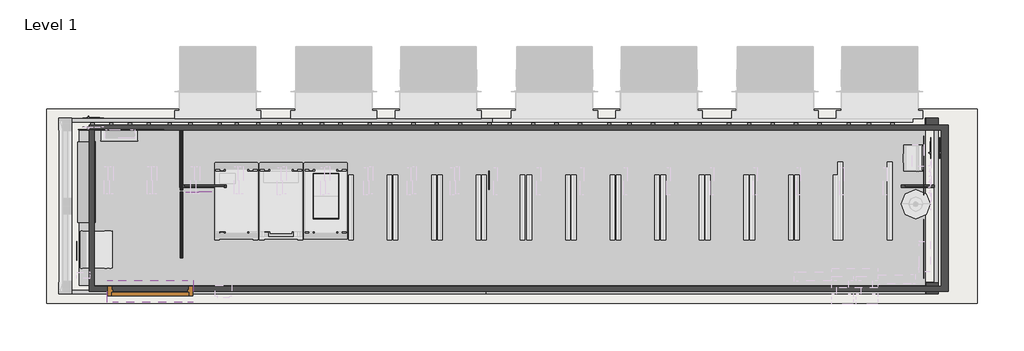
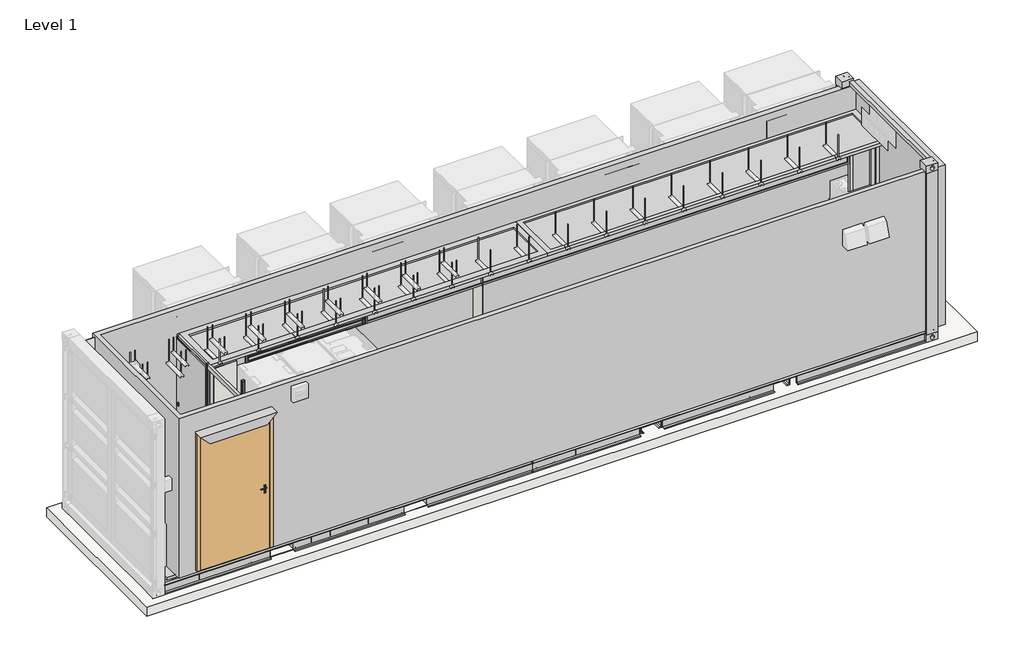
# One storey, part 1 of 2: 44 beams, 7 walls, 2 doors, 2 slabs.
"""IFC4 building model written with IfcOpenShell, lengths in millimetres."""

from ifc_helpers import new_model, si_unit, frame, origin, place, context, project, spatial, polyline, circle_curve, outline, extrude, transform, mapped, element, save
from ifc_brep_helpers import plane_surface, cylinder_surface, advanced_brep
from components import beam_16bb976f, beam_9de8577c, beam_f1e470be, beam_f05dd575, c120x45_62af5141, c120x45_5c9b4daa, foot_stand_and_door_shade_foot_stand_and_door_shade_9e24d134, door_5ed18baa, door_f1603644, slab_0a3f1999

model = new_model("IFC4")

# Units and contexts
model_context = context("Model", 3, world=origin())
ifc_project = project(units=[si_unit("LENGTHUNIT", "METRE", prefix="MILLI")], contexts=[model_context])

# Site, building, storey
site = spatial("IfcSite", under=ifc_project)
building = spatial("IfcBuilding", under=site)
storey = spatial("IfcBuildingStorey", under=building, Name="Level 1", Elevation=0.0)

# Beams
placement = place(None, origin())
beam_shape = beam_16bb976f(model_context)
element("IfcBeam", 1, ObjectType="Base_cover_Config-6 : Base_cover_Config-6", at=placement, inside=storey, context=model_context, shape_type="MappedRepresentation", body=[
    mapped(beam_shape, transform((-1145.3838032, -1779.2772175, 0.0), x_axis=(1.0, 0.0, 0.0), y_axis=(0.0, 1.0, 0.0), z_axis=(0.0, 0.0, 1.0))),
])
beam_2_shape = beam_9de8577c(model_context)
element("IfcBeam", 2, ObjectType="Insulation_config6 : Insulation_config6", at=placement, inside=storey, context=model_context, shape_type="MappedRepresentation", body=[
    mapped(beam_2_shape, transform((-5325.0880606, -3404.7772175, 0.0), x_axis=(1.0, 0.0, 0.0), y_axis=(0.0, 1.0, 0.0), z_axis=(0.0, 0.0, 1.0))),
])
beam_3_shape = beam_f1e470be(model_context)
element("IfcBeam", 3, ObjectType="Inside Partition Config-6 : Inside Partition Config-6", at=placement, inside=storey, context=model_context, shape_type="MappedRepresentation", body=[
    mapped(beam_3_shape, transform((-981.5065238, -1131.319177, 4.2), x_axis=(1.0, 0.0, 0.0), y_axis=(0.0, 1.0, 0.0), z_axis=(0.0, 0.0, 1.0))),
])
beam_4_shape = beam_f05dd575(model_context)
element("IfcBeam", 4, ObjectType="Config-6 Right side wall acc : Config-6 Right side wall acc", at=placement, inside=storey, context=model_context, shape_type="MappedRepresentation", body=[
    mapped(beam_4_shape, transform((4978.8891977, -2915.458701, 250.9999942), x_axis=(1.0, 0.0, 0.0), y_axis=(0.0, 1.0, 0.0), z_axis=(0.0, 0.0, 1.0))),
])
c120x45_shape = c120x45_62af5141(model_context)
element("IfcBeam", 5, ObjectType="M_C-Channel_305x105 : C120x45", at=placement, inside=storey, context=model_context, shape_type="MappedRepresentation", body=[
    mapped(c120x45_shape, transform((-3750.0018007, -1755.2772175, 324.0), x_axis=(0.0, -1.0, 0.0), y_axis=(1.0, 0.0, 0.0), z_axis=(0.0, 0.0, 1.0))),
])
element("IfcBeam", 6, ObjectType="M_C-Channel_305x105 : C120x45", at=placement, inside=storey, context=model_context, shape_type="MappedRepresentation", body=[
    mapped(c120x45_shape, transform((-3490.0018007, -1755.2772175, 324.0), x_axis=(0.0, -1.0, 0.0), y_axis=(1.0, 0.0, 0.0), z_axis=(0.0, 0.0, 1.0))),
])
element("IfcBeam", 7, ObjectType="M_C-Channel_305x105 : C120x45", at=placement, inside=storey, context=model_context, shape_type="MappedRepresentation", body=[
    mapped(c120x45_shape, transform((-3230.0018007, -1755.2772175, 324.0), x_axis=(0.0, -1.0, 0.0), y_axis=(1.0, 0.0, 0.0), z_axis=(0.0, 0.0, 1.0))),
])
element("IfcBeam", 8, ObjectType="M_C-Channel_305x105 : C120x45", at=placement, inside=storey, context=model_context, shape_type="MappedRepresentation", body=[
    mapped(c120x45_shape, transform((-2970.0018007, -1755.2772175, 324.0), x_axis=(0.0, -1.0, 0.0), y_axis=(1.0, 0.0, 0.0), z_axis=(0.0, 0.0, 1.0))),
])
element("IfcBeam", 9, ObjectType="M_C-Channel_305x105 : C120x45", at=placement, inside=storey, context=model_context, shape_type="MappedRepresentation", body=[
    mapped(c120x45_shape, transform((-2392.0018007, -1755.2772175, 324.0), x_axis=(0.0, -1.0, 0.0), y_axis=(1.0, 0.0, 0.0), z_axis=(0.0, 0.0, 1.0))),
])
element("IfcBeam", 10, ObjectType="M_C-Channel_305x105 : C120x45", at=placement, inside=storey, context=model_context, shape_type="MappedRepresentation", body=[
    mapped(c120x45_shape, transform((-2681.0018007, -1755.2772175, 324.0), x_axis=(0.0, -1.0, 0.0), y_axis=(1.0, 0.0, 0.0), z_axis=(0.0, 0.0, 1.0))),
])
element("IfcBeam", 11, ObjectType="M_C-Channel_305x105 : C120x45", at=placement, inside=storey, context=model_context, shape_type="MappedRepresentation", body=[
    mapped(c120x45_shape, transform((-1750.0018007, -1755.2772175, 324.0), x_axis=(0.0, -1.0, 0.0), y_axis=(1.0, 0.0, 0.0), z_axis=(0.0, 0.0, 1.0))),
])
element("IfcBeam", 12, ObjectType="M_C-Channel_305x105 : C120x45", at=placement, inside=storey, context=model_context, shape_type="MappedRepresentation", body=[
    mapped(c120x45_shape, transform((-1455.0018007, -1755.2772175, 324.0), x_axis=(0.0, -1.0, 0.0), y_axis=(1.0, 0.0, 0.0), z_axis=(0.0, 0.0, 1.0))),
])
element("IfcBeam", 13, ObjectType="M_C-Channel_305x105 : C120x45", at=placement, inside=storey, context=model_context, shape_type="MappedRepresentation", body=[
    mapped(c120x45_shape, transform((-1158.964023, -1755.2772175, 324.0), x_axis=(0.0, -1.0, 0.0), y_axis=(1.0, 0.0, 0.0), z_axis=(0.0, 0.0, 1.0))),
])
element("IfcBeam", 14, ObjectType="M_C-Channel_305x105 : C120x45", at=placement, inside=storey, context=model_context, shape_type="MappedRepresentation", body=[
    mapped(c120x45_shape, transform((-865.0018007, -1755.2772175, 324.0), x_axis=(0.0, -1.0, 0.0), y_axis=(1.0, 0.0, 0.0), z_axis=(0.0, 0.0, 1.0))),
])
element("IfcBeam", 15, ObjectType="M_C-Channel_305x105 : C120x45", at=placement, inside=storey, context=model_context, shape_type="MappedRepresentation", body=[
    mapped(c120x45_shape, transform((-570.0018007, -1755.2772175, 324.0), x_axis=(0.0, -1.0, 0.0), y_axis=(1.0, 0.0, 0.0), z_axis=(0.0, 0.0, 1.0))),
])
element("IfcBeam", 16, ObjectType="M_C-Channel_305x105 : C120x45", at=placement, inside=storey, context=model_context, shape_type="MappedRepresentation", body=[
    mapped(c120x45_shape, transform((-312.0018007, -1755.2772175, 324.0), x_axis=(0.0, -1.0, 0.0), y_axis=(1.0, 0.0, 0.0), z_axis=(0.0, 0.0, 1.0))),
])
element("IfcBeam", 17, ObjectType="M_C-Channel_305x105 : C120x45", at=placement, inside=storey, context=model_context, shape_type="MappedRepresentation", body=[
    mapped(c120x45_shape, transform((372.9981993, -1755.2772175, 324.0), x_axis=(0.0, -1.0, 0.0), y_axis=(1.0, 0.0, 0.0), z_axis=(0.0, 0.0, 1.0))),
])
element("IfcBeam", 18, ObjectType="M_C-Channel_305x105 : C120x45", at=placement, inside=storey, context=model_context, shape_type="MappedRepresentation", body=[
    mapped(c120x45_shape, transform((697.9981993, -1755.2772175, 324.0), x_axis=(0.0, -1.0, 0.0), y_axis=(1.0, 0.0, 0.0), z_axis=(0.0, 0.0, 1.0))),
])
element("IfcBeam", 19, ObjectType="M_C-Channel_305x105 : C120x45", at=placement, inside=storey, context=model_context, shape_type="MappedRepresentation", body=[
    mapped(c120x45_shape, transform((1022.9981993, -1755.2772175, 324.0), x_axis=(0.0, -1.0, 0.0), y_axis=(1.0, 0.0, 0.0), z_axis=(0.0, 0.0, 1.0))),
])
element("IfcBeam", 20, ObjectType="M_C-Channel_305x105 : C120x45", at=placement, inside=storey, context=model_context, shape_type="MappedRepresentation", body=[
    mapped(c120x45_shape, transform((1347.9981993, -1755.2772175, 324.0), x_axis=(0.0, -1.0, 0.0), y_axis=(1.0, 0.0, 0.0), z_axis=(0.0, 0.0, 1.0))),
])
element("IfcBeam", 21, ObjectType="M_C-Channel_305x105 : C120x45", at=placement, inside=storey, context=model_context, shape_type="MappedRepresentation", body=[
    mapped(c120x45_shape, transform((2032.9981993, -1755.2772175, 324.0), x_axis=(0.0, -1.0, 0.0), y_axis=(1.0, 0.0, 0.0), z_axis=(0.0, 0.0, 1.0))),
])
element("IfcBeam", 22, ObjectType="M_C-Channel_305x105 : C120x45", at=placement, inside=storey, context=model_context, shape_type="MappedRepresentation", body=[
    mapped(c120x45_shape, transform((2357.9981993, -1755.2772175, 324.0), x_axis=(0.0, -1.0, 0.0), y_axis=(1.0, 0.0, 0.0), z_axis=(0.0, 0.0, 1.0))),
])
element("IfcBeam", 23, ObjectType="M_C-Channel_305x105 : C120x45", at=placement, inside=storey, context=model_context, shape_type="MappedRepresentation", body=[
    mapped(c120x45_shape, transform((2682.9981993, -1755.2772175, 324.0), x_axis=(0.0, -1.0, 0.0), y_axis=(1.0, 0.0, 0.0), z_axis=(0.0, 0.0, 1.0))),
])
element("IfcBeam", 24, ObjectType="M_C-Channel_305x105 : C120x45", at=placement, inside=storey, context=model_context, shape_type="MappedRepresentation", body=[
    mapped(c120x45_shape, transform((3007.9981993, -1755.2772175, 324.0), x_axis=(0.0, -1.0, 0.0), y_axis=(1.0, 0.0, 0.0), z_axis=(0.0, 0.0, 1.0))),
])
element("IfcBeam", 25, ObjectType="M_C-Channel_305x105 : C120x45", at=placement, inside=storey, context=model_context, shape_type="MappedRepresentation", body=[
    mapped(c120x45_shape, transform((3692.9981993, -1755.2772175, 324.0), x_axis=(0.0, -1.0, 0.0), y_axis=(1.0, 0.0, 0.0), z_axis=(0.0, 0.0, 1.0))),
])
element("IfcBeam", 26, ObjectType="M_C-Channel_305x105 : C120x45", at=placement, inside=storey, context=model_context, shape_type="MappedRepresentation", body=[
    mapped(c120x45_shape, transform((4017.9981993, -1755.2772175, 324.0), x_axis=(0.0, -1.0, 0.0), y_axis=(1.0, 0.0, 0.0), z_axis=(0.0, 0.0, 1.0))),
])
element("IfcBeam", 27, ObjectType="M_C-Channel_305x105 : C120x45", at=placement, inside=storey, context=model_context, shape_type="MappedRepresentation", body=[
    mapped(c120x45_shape, transform((4342.9981993, -1755.2772175, 324.0), x_axis=(0.0, -1.0, 0.0), y_axis=(1.0, 0.0, 0.0), z_axis=(0.0, 0.0, 1.0))),
])
element("IfcBeam", 28, ObjectType="M_C-Channel_305x105 : C120x45", at=placement, inside=storey, context=model_context, shape_type="MappedRepresentation", body=[
    mapped(c120x45_shape, transform((4667.9981993, -1755.2772175, 324.0), x_axis=(0.0, -1.0, 0.0), y_axis=(1.0, 0.0, 0.0), z_axis=(0.0, 0.0, 1.0))),
])
element("IfcBeam", 29, ObjectType="M_C-Channel_305x105 : C120x45", at=placement, inside=storey, context=model_context, shape_type="MappedRepresentation", body=[
    mapped(c120x45_shape, transform((5352.9981993, -1755.2772175, 324.0), x_axis=(0.0, -1.0, 0.0), y_axis=(1.0, 0.0, 0.0), z_axis=(0.0, 0.0, 1.0))),
])
element("IfcBeam", 30, ObjectType="M_C-Channel_305x105 : C120x45", at=placement, inside=storey, context=model_context, shape_type="MappedRepresentation", body=[
    mapped(c120x45_shape, transform((5677.9981993, -1755.2772175, 324.0), x_axis=(0.0, -1.0, 0.0), y_axis=(1.0, 0.0, 0.0), z_axis=(0.0, 0.0, 1.0))),
])
element("IfcBeam", 31, ObjectType="M_C-Channel_305x105 : C120x45", at=placement, inside=storey, context=model_context, shape_type="MappedRepresentation", body=[
    mapped(c120x45_shape, transform((6002.9981993, -1755.2772175, 324.0), x_axis=(0.0, -1.0, 0.0), y_axis=(1.0, 0.0, 0.0), z_axis=(0.0, 0.0, 1.0))),
])
element("IfcBeam", 32, ObjectType="M_C-Channel_305x105 : C120x45", at=placement, inside=storey, context=model_context, shape_type="MappedRepresentation", body=[
    mapped(c120x45_shape, transform((6327.9981993, -1755.2772175, 324.0), x_axis=(0.0, -1.0, 0.0), y_axis=(1.0, 0.0, 0.0), z_axis=(0.0, 0.0, 1.0))),
])
element("IfcBeam", 33, ObjectType="M_C-Channel_305x105 : C120x45", at=placement, inside=storey, context=model_context, shape_type="MappedRepresentation", body=[
    mapped(c120x45_shape, transform((7012.9981993, -1755.2772175, 324.0), x_axis=(0.0, -1.0, 0.0), y_axis=(1.0, 0.0, 0.0), z_axis=(0.0, 0.0, 1.0))),
])
element("IfcBeam", 34, ObjectType="M_C-Channel_305x105 : C120x45", at=placement, inside=storey, context=model_context, shape_type="MappedRepresentation", body=[
    mapped(c120x45_shape, transform((7337.9981993, -1755.2772175, 324.0), x_axis=(0.0, -1.0, 0.0), y_axis=(1.0, 0.0, 0.0), z_axis=(0.0, 0.0, 1.0))),
])
c120x45_2_shape = c120x45_5c9b4daa(model_context)
element("IfcBeam", 35, ObjectType="M_C-Channel_305x105 : C120x45", at=placement, inside=storey, context=model_context, shape_type="MappedRepresentation", body=[
    mapped(c120x45_2_shape, transform((-1998.2198038, -1755.2772175, 324.0), x_axis=(0.0, -1.0, 0.0), y_axis=(1.0, 0.0, 0.0), z_axis=(0.0, 0.0, 1.0))),
])
element("IfcBeam", 36, ObjectType="M_C-Channel_305x105 : C120x45", at=placement, inside=storey, context=model_context, shape_type="MappedRepresentation", body=[
    mapped(c120x45_2_shape, transform((81.7801962, -1755.2772175, 324.0), x_axis=(0.0, -1.0, 0.0), y_axis=(1.0, 0.0, 0.0), z_axis=(0.0, 0.0, 1.0))),
])
element("IfcBeam", 37, ObjectType="M_C-Channel_305x105 : C120x45", at=placement, inside=storey, context=model_context, shape_type="MappedRepresentation", body=[
    mapped(c120x45_2_shape, transform((1741.7801962, -1755.2772175, 324.0), x_axis=(0.0, -1.0, 0.0), y_axis=(1.0, 0.0, 0.0), z_axis=(0.0, 0.0, 1.0))),
])
element("IfcBeam", 38, ObjectType="M_C-Channel_305x105 : C120x45", at=placement, inside=storey, context=model_context, shape_type="MappedRepresentation", body=[
    mapped(c120x45_2_shape, transform((3401.7801962, -1755.2772175, 324.0), x_axis=(0.0, -1.0, 0.0), y_axis=(1.0, 0.0, 0.0), z_axis=(0.0, 0.0, 1.0))),
])
element("IfcBeam", 39, ObjectType="M_C-Channel_305x105 : C120x45", at=placement, inside=storey, context=model_context, shape_type="MappedRepresentation", body=[
    mapped(c120x45_2_shape, transform((5061.7801962, -1755.2772175, 324.0), x_axis=(0.0, -1.0, 0.0), y_axis=(1.0, 0.0, 0.0), z_axis=(0.0, 0.0, 1.0))),
])
element("IfcBeam", 40, ObjectType="M_C-Channel_305x105 : C120x45", at=placement, inside=storey, context=model_context, shape_type="MappedRepresentation", body=[
    mapped(c120x45_2_shape, transform((6721.7801962, -1755.2772175, 324.0), x_axis=(0.0, -1.0, 0.0), y_axis=(1.0, 0.0, 0.0), z_axis=(0.0, 0.0, 1.0))),
])
element("IfcBeam", 41, ObjectType="M_C-Channel_305x105 : C160x47", at=placement, inside=storey, context=model_context, shape_type="AdvancedBrep", body=[
    advanced_brep(
    [(-4042.1108023, -585.7772175, 410.9999915), (-4042.1108023, -538.7772175, 410.9999915), (-4042.1108023, -551.4772175, 398.2999915), (-4042.1108023, -580.7772175, 393.6593274), (-4042.1108023, -580.7772175, 268.3406556), (-4042.1108023, -551.4772175, 263.6999915), (-4042.1108023, -538.7772175, 250.9999915), (-4042.1108023, -585.7772175, 250.9999915), (1785.8997533, -585.7772175, 410.9999915), (1785.8997533, -585.7772175, 250.9999915), (1785.8997533, -538.7772175, 250.9999915), (1785.8997533, -551.4772175, 263.6999915), (1785.8997533, -580.7772175, 268.3406556), (1785.8997533, -580.7772175, 393.6593274), (1785.8997533, -551.4772175, 398.2999915), (1785.8997533, -538.7772175, 410.9999915), (57.9269755, -580.7772175, 268.3406556), (57.9269755, -580.7772175, 365.9999967), (-302.1002467, -580.7772175, 365.9999967), (-302.1002467, -580.7772175, 268.3406556), (-2015.8963632, -580.7772175, 268.3406556), (-2015.8963632, -580.7772175, 365.999994), (-2382.1000733, -580.7772175, 365.999994), (-2382.1000733, -580.7772175, 268.3406556), (-2382.1000733, -551.4772175, 263.6999915), (57.9269755, -551.4772175, 263.6999915), (-2015.8963632, -551.4772175, 263.6999915), (-302.1002467, -551.4772175, 263.6999915), (-2382.1000733, -538.7772175, 250.9999915), (57.9269755, -538.7772175, 250.9999915), (-2015.8963632, -538.7772175, 250.9999915), (-302.1002467, -538.7772175, 250.9999915), (-2382.1000733, -585.7772175, 250.9999915), (57.9269755, -585.7772175, 250.9999915), (-2015.8963632, -585.7772175, 250.9999915), (-302.1002467, -585.7772175, 250.9999915), (-2382.1000733, -585.7772175, 365.999994), (-2015.8963632, -585.7772175, 365.999994), (-302.1002467, -585.7772175, 365.9999967), (57.9269755, -585.7772175, 365.9999967)],
    [
        (0, 1),
        (1, 2, circle_curve(frame((-4042.1108023, -551.4772175, 410.9999915), z_axis=(-1.0, 0.0, 0.0), x_axis=(0.0, 1.0, 0.0)), 12.7)),
        (2, 3),
        (3, 4),
        (4, 5),
        (5, 6, circle_curve(frame((-4042.1108023, -551.4772175, 250.9999915), z_axis=(-1.0, 0.0, 0.0), x_axis=(0.0, 1.0, 0.0)), 12.7)),
        (6, 7),
        (7, 0),
        (8, 9),
        (9, 10),
        (10, 11, circle_curve(frame((1785.8997533, -551.4772175, 250.9999915), z_axis=(1.0, 0.0, 0.0), x_axis=(0.0, 1.0, 0.0)), 12.7)),
        (11, 12),
        (12, 13),
        (13, 14),
        (14, 15, circle_curve(frame((1785.8997533, -551.4772175, 410.9999915), z_axis=(1.0, 0.0, 0.0), x_axis=(0.0, 1.0, 0.0)), 12.7)),
        (15, 8),
        (0, 8),
        (15, 1),
        (14, 2),
        (13, 3),
        (12, 16),
        (16, 17),
        (17, 18),
        (18, 19),
        (19, 20),
        (20, 21),
        (21, 22),
        (22, 23),
        (23, 4),
        (23, 24),
        (24, 5),
        (11, 25),
        (25, 16),
        (26, 20),
        (19, 27),
        (27, 26),
        (24, 28, circle_curve(frame((-2382.1000733, -551.4772175, 250.9999915), z_axis=(-1.0, 0.0, 0.0), x_axis=(0.0, 1.0, 0.0)), 12.7)),
        (28, 6),
        (10, 29),
        (29, 25, circle_curve(frame((57.9269755, -551.4772175, 250.9999915), z_axis=(1.0, 0.0, 0.0), x_axis=(0.0, 1.0, 0.0)), 12.7)),
        (30, 26, circle_curve(frame((-2015.8963632, -551.4772175, 250.9999915), z_axis=(1.0, 0.0, 0.0), x_axis=(0.0, 1.0, 0.0)), 12.7)),
        (27, 31, circle_curve(frame((-302.1002467, -551.4772175, 250.9999915), z_axis=(-1.0, 0.0, 0.0), x_axis=(0.0, 1.0, 0.0)), 12.7)),
        (31, 30),
        (28, 32),
        (32, 7),
        (9, 33),
        (33, 29),
        (34, 30),
        (31, 35),
        (35, 34),
        (32, 36),
        (36, 37),
        (37, 34),
        (35, 38),
        (38, 39),
        (39, 33),
        (36, 22),
        (21, 37),
        (38, 18),
        (17, 39),
    ],
    [
        plane_surface(frame((-4042.1108023, -564.7772175, 330.9999915), z_axis=(-1.0, 0.0, 0.0), x_axis=(0.0, 0.0, 1.0))),
        plane_surface(frame((1785.8997533, -564.7772175, 330.9999915), z_axis=(1.0, 0.0, 0.0), x_axis=(0.0, 0.0, 1.0))),
        plane_surface(frame((-4042.1108023, -585.7772175, 410.9999915), z_axis=(0.0, 0.0, 1.0), x_axis=(1.0, 0.0, 0.0))),
        cylinder_surface(frame((-4042.1108023, -551.4772175, 410.9999915), z_axis=(-1.0, 0.0, 0.0), x_axis=(0.0, 1.0, 0.0)), 12.7),
        plane_surface(frame((-4042.1108023, -551.4772175, 398.2999915), z_axis=(0.0, 0.15643446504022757, -0.9876883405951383), x_axis=(1.0, 0.0, 0.0))),
        plane_surface(frame((-4042.1108023, -580.7772175, 393.6593274), z_axis=(0.0, 1.0, 0.0), x_axis=(1.0, 0.0, 0.0))),
        plane_surface(frame((-4042.1108023, -580.7772175, 268.3406556), z_axis=(0.0, 0.1564344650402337, 0.9876883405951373), x_axis=(1.0, 0.0, 0.0))),
        cylinder_surface(frame((-4042.1108023, -551.4772175, 250.9999915), z_axis=(-1.0, 0.0, 0.0), x_axis=(0.0, 1.0, 0.0)), 12.7),
        plane_surface(frame((-4042.1108023, -538.7772175, 250.9999915), z_axis=(0.0, 0.0, -1.0), x_axis=(1.0, 0.0, 0.0))),
        plane_surface(frame((-4042.1108023, -585.7772175, 250.9999915), z_axis=(0.0, -1.0, 0.0), x_axis=(1.0, 0.0, 0.0))),
        plane_surface(frame((-2382.1000733, 16483.0727825, 365.999994), z_axis=(0.0, 0.0, -1.0), x_axis=(0.0, -1.0, 0.0))),
        plane_surface(frame((-2015.8963632, 16483.0727825, 365.999994), z_axis=(-1.0, 0.0, 0.0), x_axis=(0.0, -1.0, 0.0))),
        plane_surface(frame((-2382.1000733, 16483.0727825, 250.9999915), z_axis=(1.0, 0.0, 0.0), x_axis=(0.0, -1.0, 0.0))),
        plane_surface(frame((-302.1002467, 16483.0727825, 365.9999967), z_axis=(0.0, 0.0, -1.0), x_axis=(0.0, -1.0, 0.0))),
        plane_surface(frame((57.9269755, 16483.0727825, 365.9999967), z_axis=(-1.0, 0.0, 0.0), x_axis=(0.0, -1.0, 0.0))),
        plane_surface(frame((-302.1002467, 16483.0727825, 250.9999915), z_axis=(1.0, 0.0, 0.0), x_axis=(0.0, -1.0, 0.0))),
    ],
    [
        (0, [[1, 2, 3, 4, 5, 6, 7, 8]]),
        (1, [[9, 10, 11, 12, 13, 14, 15, 16]]),
        (2, [[-1, 17, -16, 18]]),
        (3, [[-2, -18, -15, 19]]),
        (4, [[-3, -19, -14, 20]]),
        (5, [[-4, -20, -13, 21, 22, 23, 24, 25, 26, 27, 28, 29]]),
        (6, [[-5, -29, 30, 31]]),
        (6, [[-12, 32, 33, -21]]),
        (6, [[34, -25, 35, 36]]),
        (7, [[-6, -31, 37, 38]]),
        (7, [[-11, 39, 40, -32]]),
        (7, [[41, -36, 42, 43]]),
        (8, [[-7, -38, 44, 45]]),
        (8, [[-10, 46, 47, -39]]),
        (8, [[48, -43, 49, 50]]),
        (9, [[-8, -45, 51, 52, 53, -50, 54, 55, 56, -46, -9, -17]]),
        (10, [[57, -27, 58, -52]]),
        (11, [[-58, -26, -34, -41, -48, -53]]),
        (12, [[-57, -51, -44, -37, -30, -28]]),
        (13, [[59, -23, 60, -55]]),
        (14, [[-60, -22, -33, -40, -47, -56]]),
        (15, [[-59, -54, -49, -42, -35, -24]]),
    ],
),
])
element("IfcBeam", 42, ObjectType="M_C-Channel_305x105 : C160x47", at=placement, inside=storey, context=model_context, shape_type="AdvancedBrep", body=[
    advanced_brep(
    [(-4042.1108023, -2971.7772175, 410.9999915), (-4042.1108023, -2924.7772175, 410.9999915), (-4042.1108023, -2924.7772175, 250.9999915), (-4042.1108023, -2971.7772175, 250.9999915), (-4042.1108023, -2959.0772175, 263.6999915), (-4042.1108023, -2929.7772175, 268.3406556), (-4042.1108023, -2929.7772175, 393.6593274), (-4042.1108023, -2959.0772175, 398.2999915), (1692.8997533, -2924.7772175, 250.9999915), (1692.8997533, -2924.7772175, 410.9999915), (1692.8997533, -2971.7772175, 410.9999915), (1692.8997533, -2959.0772175, 398.2999915), (1692.8997533, -2929.7772175, 393.6593274), (1692.8997533, -2929.7772175, 268.3406556), (1692.8997533, -2959.0772175, 263.6999915), (1692.8997533, -2971.7772175, 250.9999915), (-2382.1000733, -2929.7772175, 268.3406556), (-2382.1000733, -2929.7772175, 365.999994), (-2015.8963632, -2929.7772175, 365.999994), (-2015.8963632, -2929.7772175, 268.3406556), (-302.1002467, -2929.7772175, 268.3406556), (-302.1002467, -2929.7772175, 365.9999967), (57.9269755, -2929.7772175, 365.9999967), (57.9269755, -2929.7772175, 268.3406556), (-2382.1000733, -2959.0772175, 263.6999915), (57.9269755, -2959.0772175, 263.6999915), (-2015.8963632, -2959.0772175, 263.6999915), (-302.1002467, -2959.0772175, 263.6999915), (-2382.1000733, -2971.7772175, 250.9999915), (57.9269755, -2971.7772175, 250.9999915), (-2015.8963632, -2971.7772175, 250.9999915), (-302.1002467, -2971.7772175, 250.9999915), (-2382.1000733, -2924.7772175, 250.9999915), (57.9269755, -2924.7772175, 250.9999915), (-2015.8963632, -2924.7772175, 250.9999915), (-302.1002467, -2924.7772175, 250.9999915), (57.9269755, -2924.7772175, 365.9999967), (-302.1002467, -2924.7772175, 365.9999967), (-2015.8963632, -2924.7772175, 365.999994), (-2382.1000733, -2924.7772175, 365.999994)],
    [
        (0, 1),
        (1, 2),
        (2, 3),
        (3, 4, circle_curve(frame((-4042.1108023, -2959.0772175, 250.9999915), z_axis=(-1.0, 0.0, 0.0), x_axis=(0.0, -1.0, 0.0)), 12.7)),
        (4, 5),
        (5, 6),
        (6, 7),
        (7, 0, circle_curve(frame((-4042.1108023, -2959.0772175, 410.9999915), z_axis=(-1.0, 0.0, 0.0), x_axis=(0.0, -1.0, 0.0)), 12.7)),
        (8, 9),
        (9, 10),
        (10, 11, circle_curve(frame((1692.8997533, -2959.0772175, 410.9999915), z_axis=(1.0, 0.0, 0.0), x_axis=(0.0, -1.0, 0.0)), 12.7)),
        (11, 12),
        (12, 13),
        (13, 14),
        (14, 15, circle_curve(frame((1692.8997533, -2959.0772175, 250.9999915), z_axis=(1.0, 0.0, 0.0), x_axis=(0.0, -1.0, 0.0)), 12.7)),
        (15, 8),
        (0, 10),
        (9, 1),
        (7, 11),
        (6, 12),
        (5, 16),
        (16, 17),
        (17, 18),
        (18, 19),
        (19, 20),
        (20, 21),
        (21, 22),
        (22, 23),
        (23, 13),
        (4, 24),
        (24, 16),
        (23, 25),
        (25, 14),
        (19, 26),
        (26, 27),
        (27, 20),
        (3, 28),
        (28, 24, circle_curve(frame((-2382.1000733, -2959.0772175, 250.9999915), z_axis=(-1.0, 0.0, 0.0), x_axis=(0.0, -1.0, 0.0)), 12.7)),
        (25, 29, circle_curve(frame((57.9269755, -2959.0772175, 250.9999915), z_axis=(1.0, 0.0, 0.0), x_axis=(0.0, -1.0, 0.0)), 12.7)),
        (29, 15),
        (26, 30, circle_curve(frame((-2015.8963632, -2959.0772175, 250.9999915), z_axis=(1.0, 0.0, 0.0), x_axis=(0.0, -1.0, 0.0)), 12.7)),
        (30, 31),
        (31, 27, circle_curve(frame((-302.1002467, -2959.0772175, 250.9999915), z_axis=(-1.0, 0.0, 0.0), x_axis=(0.0, -1.0, 0.0)), 12.7)),
        (2, 32),
        (32, 28),
        (29, 33),
        (33, 8),
        (30, 34),
        (34, 35),
        (35, 31),
        (33, 36),
        (36, 37),
        (37, 35),
        (34, 38),
        (38, 39),
        (39, 32),
        (17, 39),
        (38, 18),
        (21, 37),
        (36, 22),
    ],
    [
        plane_surface(frame((-4042.1108023, -2945.7772175, 330.9999915), z_axis=(-1.0, 0.0, 0.0), x_axis=(0.0, 0.0, 1.0))),
        plane_surface(frame((1692.8997533, -2945.7772175, 330.9999915), z_axis=(1.0, 0.0, 0.0), x_axis=(0.0, 0.0, 1.0))),
        plane_surface(frame((-4042.1108023, -2924.7772175, 410.9999915), z_axis=(0.0, 0.0, 1.0), x_axis=(1.0, 0.0, 0.0))),
        cylinder_surface(frame((-4042.1108023, -2959.0772175, 410.9999915), z_axis=(-1.0, 0.0, 0.0), x_axis=(0.0, -1.0, 0.0)), 12.7),
        plane_surface(frame((-4042.1108023, -2959.0772175, 398.2999915), z_axis=(0.0, -0.15643446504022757, -0.9876883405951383), x_axis=(1.0, 0.0, 0.0))),
        plane_surface(frame((-4042.1108023, -2929.7772175, 393.6593274), z_axis=(0.0, -1.0, 0.0), x_axis=(1.0, 0.0, 0.0))),
        plane_surface(frame((-4042.1108023, -2929.7772175, 268.3406556), z_axis=(0.0, -0.1564344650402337, 0.9876883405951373), x_axis=(1.0, 0.0, 0.0))),
        cylinder_surface(frame((-4042.1108023, -2959.0772175, 250.9999915), z_axis=(-1.0, 0.0, 0.0), x_axis=(0.0, -1.0, 0.0)), 12.7),
        plane_surface(frame((-4042.1108023, -2971.7772175, 250.9999915), z_axis=(0.0, 0.0, -1.0), x_axis=(1.0, 0.0, 0.0))),
        plane_surface(frame((-4042.1108023, -2924.7772175, 250.9999915), z_axis=(0.0, 1.0, 0.0), x_axis=(1.0, 0.0, 0.0))),
        plane_surface(frame((-2382.1000733, 14097.0727825, 365.999994), z_axis=(0.0, 0.0, -1.0), x_axis=(0.0, -1.0, 0.0))),
        plane_surface(frame((-2015.8963632, 14097.0727825, 365.999994), z_axis=(-1.0, 0.0, 0.0), x_axis=(0.0, -1.0, 0.0))),
        plane_surface(frame((-2382.1000733, 14097.0727825, 250.9999915), z_axis=(1.0, 0.0, 0.0), x_axis=(0.0, -1.0, 0.0))),
        plane_surface(frame((-302.1002467, 14097.0727825, 365.9999967), z_axis=(0.0, 0.0, -1.0), x_axis=(0.0, -1.0, 0.0))),
        plane_surface(frame((57.9269755, 14097.0727825, 365.9999967), z_axis=(-1.0, 0.0, 0.0), x_axis=(0.0, -1.0, 0.0))),
        plane_surface(frame((-302.1002467, 14097.0727825, 250.9999915), z_axis=(1.0, 0.0, 0.0), x_axis=(0.0, -1.0, 0.0))),
    ],
    [
        (0, [[1, 2, 3, 4, 5, 6, 7, 8]]),
        (1, [[9, 10, 11, 12, 13, 14, 15, 16]]),
        (2, [[-1, 17, -10, 18]]),
        (3, [[-8, 19, -11, -17]]),
        (4, [[-7, 20, -12, -19]]),
        (5, [[-6, 21, 22, 23, 24, 25, 26, 27, 28, 29, -13, -20]]),
        (6, [[-5, 30, 31, -21]]),
        (6, [[-14, -29, 32, 33]]),
        (6, [[34, 35, 36, -25]]),
        (7, [[-4, 37, 38, -30]]),
        (7, [[-15, -33, 39, 40]]),
        (7, [[41, 42, 43, -35]]),
        (8, [[-3, 44, 45, -37]]),
        (8, [[-16, -40, 46, 47]]),
        (8, [[48, 49, 50, -42]]),
        (9, [[-2, -18, -9, -47, 51, 52, 53, -49, 54, 55, 56, -44]]),
        (10, [[-23, 57, -55, 58]]),
        (11, [[-24, -58, -54, -48, -41, -34]]),
        (12, [[-22, -31, -38, -45, -56, -57]]),
        (13, [[59, -52, 60, -27]]),
        (14, [[-60, -51, -46, -39, -32, -28]]),
        (15, [[-59, -26, -36, -43, -50, -53]]),
    ],
),
])
element("IfcBeam", 43, ObjectType="M_C-Channel_305x105 : C160x47", at=placement, inside=storey, context=model_context, shape_type="AdvancedBrep", body=[
    advanced_brep(
    [(1675.6589779, -2971.7772175, 410.9999915), (1675.6589779, -2924.7772175, 410.9999915), (1675.6589779, -2924.7772175, 250.9999915), (1675.6589779, -2971.7772175, 250.9999915), (1675.6589779, -2959.0772175, 263.6999915), (1675.6589779, -2929.7772175, 268.3406556), (1675.6589779, -2929.7772175, 393.6593274), (1675.6589779, -2959.0772175, 398.2999915), (7789.8891977, -2924.7772175, 250.9999915), (7789.8891977, -2924.7772175, 410.9999915), (7789.8891977, -2971.7772175, 410.9999915), (7789.8891977, -2959.0772175, 398.2999915), (7789.8891977, -2929.7772175, 393.6593274), (7789.8891977, -2929.7772175, 268.3406556), (7789.8891977, -2959.0772175, 263.6999915), (7789.8891977, -2971.7772175, 250.9999915), (3359.6697069, -2929.7772175, 268.3406556), (3359.6697069, -2929.7772175, 365.999994), (3725.873417, -2929.7772175, 365.999994), (3725.873417, -2929.7772175, 268.3406556), (5439.6695335, -2929.7772175, 268.3406556), (5439.6695335, -2929.7772175, 365.9999967), (5799.6967557, -2929.7772175, 365.9999967), (5799.6967557, -2929.7772175, 268.3406556), (3359.6697069, -2959.0772175, 263.6999915), (5799.6967557, -2959.0772175, 263.6999915), (3725.873417, -2959.0772175, 263.6999915), (5439.6695335, -2959.0772175, 263.6999915), (3359.6697069, -2971.7772175, 250.9999915), (5799.6967557, -2971.7772175, 250.9999915), (3725.873417, -2971.7772175, 250.9999915), (5439.6695335, -2971.7772175, 250.9999915), (3359.6697069, -2924.7772175, 250.9999915), (5799.6967557, -2924.7772175, 250.9999915), (3725.873417, -2924.7772175, 250.9999915), (5439.6695335, -2924.7772175, 250.9999915), (5799.6967557, -2924.7772175, 365.9999967), (5439.6695335, -2924.7772175, 365.9999967), (3725.873417, -2924.7772175, 365.999994), (3359.6697069, -2924.7772175, 365.999994)],
    [
        (0, 1),
        (1, 2),
        (2, 3),
        (3, 4, circle_curve(frame((1675.6589779, -2959.0772175, 250.9999915), z_axis=(-1.0, 0.0, 0.0), x_axis=(0.0, -1.0, 0.0)), 12.7)),
        (4, 5),
        (5, 6),
        (6, 7),
        (7, 0, circle_curve(frame((1675.6589779, -2959.0772175, 410.9999915), z_axis=(-1.0, 0.0, 0.0), x_axis=(0.0, -1.0, 0.0)), 12.7)),
        (8, 9),
        (9, 10),
        (10, 11, circle_curve(frame((7789.8891977, -2959.0772175, 410.9999915), z_axis=(1.0, 0.0, 0.0), x_axis=(0.0, -1.0, 0.0)), 12.7)),
        (11, 12),
        (12, 13),
        (13, 14),
        (14, 15, circle_curve(frame((7789.8891977, -2959.0772175, 250.9999915), z_axis=(1.0, 0.0, 0.0), x_axis=(0.0, -1.0, 0.0)), 12.7)),
        (15, 8),
        (0, 10),
        (9, 1),
        (7, 11),
        (6, 12),
        (5, 16),
        (16, 17),
        (17, 18),
        (18, 19),
        (19, 20),
        (20, 21),
        (21, 22),
        (22, 23),
        (23, 13),
        (4, 24),
        (24, 16),
        (23, 25),
        (25, 14),
        (19, 26),
        (26, 27),
        (27, 20),
        (3, 28),
        (28, 24, circle_curve(frame((3359.6697069, -2959.0772175, 250.9999915), z_axis=(-1.0, 0.0, 0.0), x_axis=(0.0, -1.0, 0.0)), 12.7)),
        (25, 29, circle_curve(frame((5799.6967557, -2959.0772175, 250.9999915), z_axis=(1.0, 0.0, 0.0), x_axis=(0.0, -1.0, 0.0)), 12.7)),
        (29, 15),
        (26, 30, circle_curve(frame((3725.873417, -2959.0772175, 250.9999915), z_axis=(1.0, 0.0, 0.0), x_axis=(0.0, -1.0, 0.0)), 12.7)),
        (30, 31),
        (31, 27, circle_curve(frame((5439.6695335, -2959.0772175, 250.9999915), z_axis=(-1.0, 0.0, 0.0), x_axis=(0.0, -1.0, 0.0)), 12.7)),
        (2, 32),
        (32, 28),
        (29, 33),
        (33, 8),
        (30, 34),
        (34, 35),
        (35, 31),
        (33, 36),
        (36, 37),
        (37, 35),
        (34, 38),
        (38, 39),
        (39, 32),
        (17, 39),
        (38, 18),
        (21, 37),
        (36, 22),
    ],
    [
        plane_surface(frame((1675.6589779, -2945.7772175, 330.9999915), z_axis=(-1.0, 0.0, 0.0), x_axis=(0.0, 0.0, 1.0))),
        plane_surface(frame((7789.8891977, -2945.7772175, 330.9999915), z_axis=(1.0, 0.0, 0.0), x_axis=(0.0, 0.0, 1.0))),
        plane_surface(frame((1675.6589779, -2924.7772175, 410.9999915), z_axis=(0.0, 0.0, 1.0), x_axis=(1.0, 0.0, 0.0))),
        cylinder_surface(frame((1675.6589779, -2959.0772175, 410.9999915), z_axis=(-1.0, 0.0, 0.0), x_axis=(0.0, -1.0, 0.0)), 12.7),
        plane_surface(frame((1675.6589779, -2959.0772175, 398.2999915), z_axis=(0.0, -0.15643446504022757, -0.9876883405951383), x_axis=(1.0, 0.0, 0.0))),
        plane_surface(frame((1675.6589779, -2929.7772175, 393.6593274), z_axis=(0.0, -1.0, 0.0), x_axis=(1.0, 0.0, 0.0))),
        plane_surface(frame((1675.6589779, -2929.7772175, 268.3406556), z_axis=(0.0, -0.1564344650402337, 0.9876883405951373), x_axis=(1.0, 0.0, 0.0))),
        cylinder_surface(frame((1675.6589779, -2959.0772175, 250.9999915), z_axis=(-1.0, 0.0, 0.0), x_axis=(0.0, -1.0, 0.0)), 12.7),
        plane_surface(frame((1675.6589779, -2971.7772175, 250.9999915), z_axis=(0.0, 0.0, -1.0), x_axis=(1.0, 0.0, 0.0))),
        plane_surface(frame((1675.6589779, -2924.7772175, 250.9999915), z_axis=(0.0, 1.0, 0.0), x_axis=(1.0, 0.0, 0.0))),
        plane_surface(frame((3359.6697069, 14090.3135578, 365.999994), z_axis=(0.0, 0.0, -1.0), x_axis=(0.0, -1.0, 0.0))),
        plane_surface(frame((3725.873417, 14090.3135578, 365.999994), z_axis=(-1.0, 0.0, 0.0), x_axis=(0.0, -1.0, 0.0))),
        plane_surface(frame((3359.6697069, 14090.3135578, 250.9999915), z_axis=(1.0, 0.0, 0.0), x_axis=(0.0, -1.0, 0.0))),
        plane_surface(frame((5439.6695335, 14090.3135578, 365.9999967), z_axis=(0.0, 0.0, -1.0), x_axis=(0.0, -1.0, 0.0))),
        plane_surface(frame((5799.6967557, 14090.3135578, 365.9999967), z_axis=(-1.0, 0.0, 0.0), x_axis=(0.0, -1.0, 0.0))),
        plane_surface(frame((5439.6695335, 14090.3135578, 250.9999915), z_axis=(1.0, 0.0, 0.0), x_axis=(0.0, -1.0, 0.0))),
    ],
    [
        (0, [[1, 2, 3, 4, 5, 6, 7, 8]]),
        (1, [[9, 10, 11, 12, 13, 14, 15, 16]]),
        (2, [[-1, 17, -10, 18]]),
        (3, [[-8, 19, -11, -17]]),
        (4, [[-7, 20, -12, -19]]),
        (5, [[-6, 21, 22, 23, 24, 25, 26, 27, 28, 29, -13, -20]]),
        (6, [[-5, 30, 31, -21]]),
        (6, [[-14, -29, 32, 33]]),
        (6, [[34, 35, 36, -25]]),
        (7, [[-4, 37, 38, -30]]),
        (7, [[-15, -33, 39, 40]]),
        (7, [[41, 42, 43, -35]]),
        (8, [[-3, 44, 45, -37]]),
        (8, [[-16, -40, 46, 47]]),
        (8, [[48, 49, 50, -42]]),
        (9, [[-2, -18, -9, -47, 51, 52, 53, -49, 54, 55, 56, -44]]),
        (10, [[-23, 57, -55, 58]]),
        (11, [[-24, -58, -54, -48, -41, -34]]),
        (12, [[-22, -31, -38, -45, -56, -57]]),
        (13, [[59, -52, 60, -27]]),
        (14, [[-60, -51, -46, -39, -32, -28]]),
        (15, [[-59, -26, -36, -43, -50, -53]]),
    ],
),
])
foot_stand_and_door_shade_foot_stand_and_door_shade_shape = foot_stand_and_door_shade_foot_stand_and_door_shade_9e24d134(model_context)
element("IfcBeam", 44, ObjectType="Foot Stand and Door shade : Foot Stand and Door shade", at=placement, inside=storey, context=model_context, shape_type="MappedRepresentation", body=[
    mapped(foot_stand_and_door_shade_foot_stand_and_door_shade_shape, transform((-3609.4914784, -3341.2578694, -225.0), x_axis=(1.0, 0.0, 0.0), y_axis=(0.0, 1.0, 0.0), z_axis=(0.0, 0.0, 1.0))),
])

# Doors
door_shape = door_5ed18baa(model_context)
element("IfcDoor", 45, ObjectType="Door_Steel_Republic_Single-DoubleRabbet-Equal : ByType", at=placement, inside=storey, context=model_context, shape_type="MappedRepresentation", body=[
    mapped(door_shape, transform((-1373.7713455, -3793.9182614, 474.0508653), x_axis=(-1.0, 0.0, 0.0), y_axis=(0.0, -1.0, 0.0), z_axis=(0.0, 0.0, 1.0))),
])
door_2_shape = door_f1603644(model_context)
element("IfcDoor", 46, ObjectType="DoorPanel_Steel_Republic_F : DoorPanel_Steel_Republic_F", at=placement, inside=storey, context=model_context, shape_type="MappedRepresentation", body=[
    mapped(door_2_shape, transform((-2955.8620423, -2974.0522175, 474.0508653), x_axis=(-1.0, 0.0, 0.0), y_axis=(0.0, -1.0, 0.0), z_axis=(0.0, 0.0, 1.0))),
])

# Slabs
slab_shape = slab_0a3f1999(model_context)
element("IfcSlab", 47, ObjectType="Config-b_bottom_channel_fill : Config-b_bottom_channel_fill", at=placement, inside=storey, context=model_context, shape_type="MappedRepresentation", body=[
    mapped(slab_shape, transform((-1177.1931474, -538.7772175, -229.7577769), x_axis=(-1.0000000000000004, 0.0, 0.0), y_axis=(0.0, -1.0000000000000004, 0.0), z_axis=(0.0, 0.0, 1.0))),
])
element("IfcSlab", 48, ObjectType="Generic 150mm", at=placement, inside=storey, context=model_context, shape_type="SweptSolid", body=[
    extrude(outline(polyline([(8511.8891977, -409.4824324), (8511.8891977, -3100.4161751), (-4394.1108023, -3100.4161751), (-4394.1108023, -409.4824324), (8511.8891977, -409.4824324)])), frame((0.0, 0.0, 102.2517841), z_axis=(0.0, 0.0, 1.0), x_axis=(1.0, 0.0, 0.0)), (0.0, 0.0, 1.0), 150.0),
])

# Walls
element("IfcWall", 49, ObjectType="Generic - 50mm 3", at=placement, inside=storey, context=model_context, shape_type="SweptSolid", body=[
    extrude(outline(polyline([(1741.3997533, -1263.4752644), (1741.3997533, -1523.4752644), (1739.3997533, -1523.4752644), (1739.3997533, -1263.4752644), (1741.3997533, -1263.4752644)])), frame((0.0, 0.0, 878.857313), z_axis=(0.0, 0.0, 1.0), x_axis=(1.0, 0.0, 0.0)), (0.0, 0.0, 1.0), 1696.2174867),
])
element("IfcWall", 50, ObjectType="Generic - 50mm 3", at=placement, inside=storey, context=model_context, shape_type="SweptSolid", body=[
    extrude(outline(polyline([(7769.6365732, -1014.7565442), (7769.6365732, -1514.7565442), (7767.6365732, -1514.7565442), (7767.6365732, -1014.7565442), (7769.6365732, -1014.7565442)])), frame((0.0, 0.0, 878.857313), z_axis=(0.0, 0.0, 1.0), x_axis=(1.0, 0.0, 0.0)), (0.0, 0.0, 1.0), 1696.2174867),
])
element("IfcWall", 51, ObjectType="Generic - 50mm 3", at=placement, inside=storey, context=model_context, shape_type="SweptSolid", body=[
    extrude(outline(polyline([(-3973.1108107, -2245.4651504), (-3973.1108107, -2505.4651504), (-3975.1108107, -2505.4651504), (-3975.1108107, -2245.4651504), (-3973.1108107, -2245.4651504)])), frame((0.0, 0.0, 878.857313), z_axis=(0.0, 0.0, 1.0), x_axis=(1.0, 0.0, 0.0)), (0.0, 0.0, 1.0), 1696.2174867),
])
element("IfcWall", 52, ObjectType="Generic - 50mm 3", at=placement, inside=storey, context=model_context, shape_type="SweptSolid", body=[
    extrude(outline(polyline([(-2771.4334393, -691.78503), (-3951.4334393, -691.78503), (-3951.4334393, -689.78503), (-2771.4334393, -689.78503), (-2771.4334393, -691.78503)])), frame((0.0, 0.0, 435.6000449), z_axis=(0.0, 0.0, 1.0), x_axis=(1.0, 0.0, 0.0)), (0.0, 0.0, 1.0), 2584.3999551),
])
element("IfcWall", 53, ObjectType="Generic - 50mm 3", at=placement, inside=storey, context=model_context, shape_type="SweptSolid", body=[
    extrude(outline(polyline([(7769.6365732, -779.7565442), (7769.6365732, -1599.7565442), (7767.6365732, -1599.7565442), (7767.6365732, -779.7565442), (7769.6365732, -779.7565442)])), frame((0.0, 0.0, 459.3578118), z_axis=(0.0, 0.0, 1.0), x_axis=(1.0, 0.0, 0.0)), (0.0, 0.0, 1.0), 1066.5368147),
])
element("IfcWall", 54, ObjectType="Generic - 50mm 3", at=placement, inside=storey, context=model_context, shape_type="SweptSolid", body=[
    extrude(outline(polyline([(-2101.7122127, -1558.819177), (-2461.7122127, -1558.819177), (-2461.7122127, -1556.819177), (-2101.7122127, -1556.819177), (-2101.7122127, -1558.819177)])), frame((0.0, 0.0, 1754.2543688), z_axis=(0.0, 0.0, 1.0), x_axis=(1.0, 0.0, 0.0)), (0.0, 0.0, 1.0), 802.7456312),
])
element("IfcWall", 55, ObjectType="Generic - 50mm 3", at=placement, inside=storey, context=model_context, shape_type="SweptSolid", body=[
    extrude(outline(polyline([(7769.6365732, -1939.7565442), (7769.6365732, -2759.7565442), (7767.6365732, -2759.7565442), (7767.6365732, -1939.7565442), (7769.6365732, -1939.7565442)])), frame((0.0, 0.0, 459.3578118), z_axis=(0.0, 0.0, 1.0), x_axis=(1.0, 0.0, 0.0)), (0.0, 0.0, 1.0), 1066.5368147),
])

save(model, "model.ifc")
